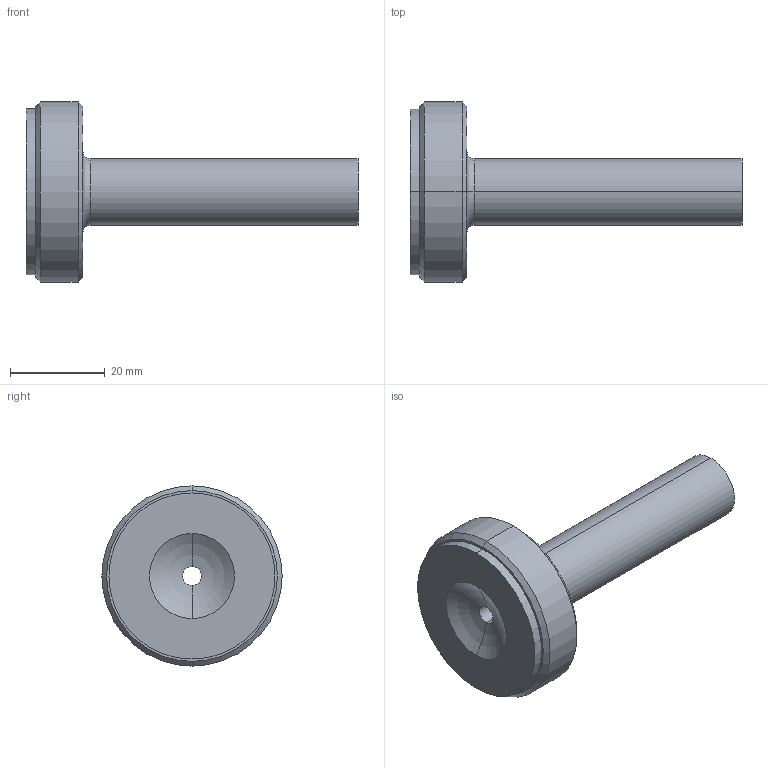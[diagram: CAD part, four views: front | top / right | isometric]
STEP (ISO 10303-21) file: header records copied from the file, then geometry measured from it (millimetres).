
FILE_DESCRIPTION (( 'STEP AP214' ), '1' );
FILE_NAME ('BRB31T-12x070.STEP', '2020-01-30T15:08:25', ( 'August' ), ( '' ), 'SwSTEP 2.0', 'SolidWorks 2018', '' );
FILE_SCHEMA (( 'AUTOMOTIVE_DESIGN' ));
Length unit declared in the file: millimetre
Products named in the file (1): BRB31T-12x070
Bounding box: 70 x 38 x 38 mm (x, y, z)
Volume: 20261.1 mm3; surface area: 7137.6 mm2
Topology: 1 solids, 1 shells, 20 faces, 40 edges, 24 vertices
Faces by surface type: cone 6, cylinder 6, torus 4, plane 4
Entity records: 566 total; most frequent: DIRECTION 110, CARTESIAN_POINT 85, ORIENTED_EDGE 80, AXIS2_PLACEMENT_3D 49, EDGE_CURVE 40, CIRCLE 28, VERTEX_POINT 24, EDGE_LOOP 24
